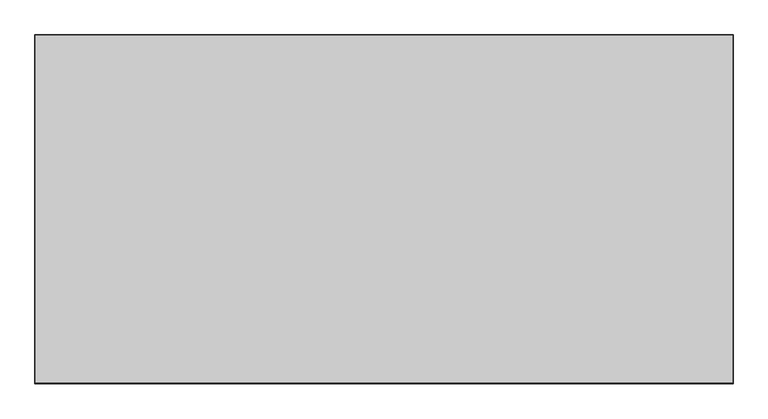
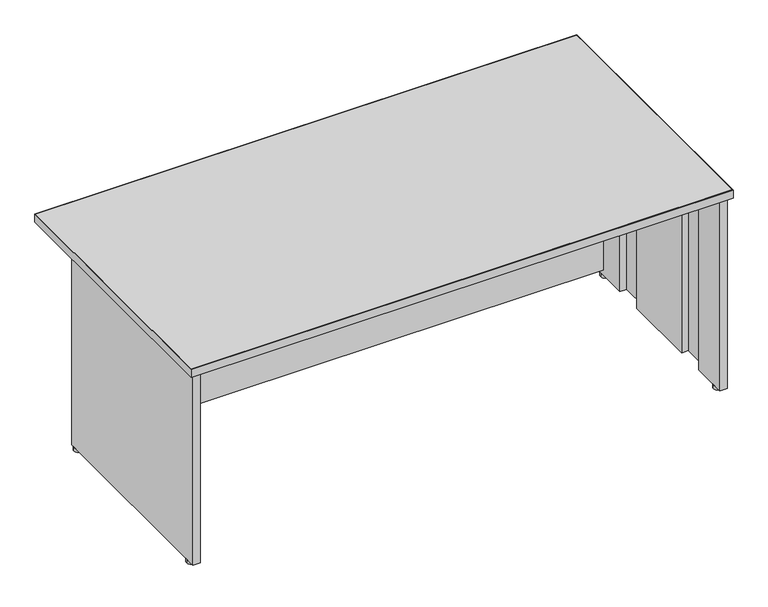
"""IFC4 building model written with IfcOpenShell, lengths in millimetres: furniture geometry, Steelcase - Kick Freestanding - Desk Shell - Full Height Modesty Panel : 36D x 72W."""

from ifc_helpers import new_model, si_unit, point, frame, frame_2d, origin, origin_with_axes, place, context, project, spatial, polyline, circle_curve, trimmed, segment, composite_curve, outline, extrude, source, transform, mapped, element, save


def furniture_db5e789c(model_context):
    return source(origin(), model_context, "Body", "SweptSolid", [
        extrude(outline(polyline([(677.0450425, -1152.3647597), (677.0450425, -1126.9647604), (2431.4738425, -1126.9647604), (2431.4738425, -1152.3647597), (677.0450425, -1152.3647597)])), frame((0.0, 0.0, 31.242), z_axis=(0.0, 0.0, 1.0), x_axis=(1.0, 0.0, 0.0)), (0.0, 0.0, 1.0), 663.702),
        extrude(outline(composite_curve([segment(trimmed(circle_curve(frame_2d((665.1357759, -1139.3367877)), 13.97), [point((651.1657759, -1139.3367877))], [point((679.1057759, -1139.3367877))], False, "CARTESIAN"), True, "CONTINUOUS"), segment(trimmed(circle_curve(frame_2d((665.1357759, -1139.3367877)), 13.97), [point((679.1057759, -1139.3367877))], [point((651.1657759, -1139.3367877))], False, "CARTESIAN"), True, "CONTINUOUS")], self_intersect=False)), origin_with_axes(), (0.0, 0.0, 1.0), 12.446),
        extrude(outline(composite_curve([segment(trimmed(circle_curve(frame_2d((665.1357759, -1798.4441481)), 13.97), [point((651.1657759, -1798.4441481))], [point((679.1057759, -1798.4441481))], False, "CARTESIAN"), True, "CONTINUOUS"), segment(trimmed(circle_curve(frame_2d((665.1357759, -1798.4441481)), 13.97), [point((679.1057759, -1798.4441481))], [point((651.1657759, -1798.4441481))], False, "CARTESIAN"), True, "CONTINUOUS")], self_intersect=False)), origin_with_axes(), (0.0, 0.0, 1.0), 12.446),
        extrude(outline(polyline([(2431.4738425, -1248.4529604), (2431.4738425, -1125.1867604), (2455.9594421, -1125.1867604), (2455.9594421, -1833.338741), (2431.4738421, -1833.338741), (2431.4738421, -1709.0311348), (2453.9020425, -1709.0311348), (2453.9020425, -1609.3107682), (2431.4738421, -1609.3107682), (2431.4738421, -1348.1733647), (2453.9020425, -1348.1733647), (2453.9020425, -1248.4529604), (2431.4738425, -1248.4529604)])), frame((0.0, 0.0, 12.446), z_axis=(0.0, 0.0, 1.0), x_axis=(1.0, 0.0, 0.0)), (0.0, 0.0, 1.0), 682.498),
        extrude(outline(polyline([(677.0450425, -1248.4529604), (654.6168425, -1248.4529604), (654.6168425, -1348.1733647), (677.0450429, -1348.1733647), (677.0450429, -1609.3107682), (654.6168425, -1609.3107682), (654.6168425, -1709.0311348), (677.0450429, -1709.0311348), (677.0450429, -1833.338741), (652.5594429, -1833.338741), (652.5594429, -1125.1867604), (677.0450425, -1125.1867604), (677.0450425, -1248.4529604)])), frame((0.0, 0.0, 12.446), z_axis=(0.0, 0.0, 1.0), x_axis=(1.0, 0.0, 0.0)), (0.0, 0.0, 1.0), 682.498),
        extrude(outline(polyline([(2467.6688425, -932.6293604), (2467.6688425, -1843.0669215), (640.8500425, -1843.0669215), (640.8500425, -932.6293604), (2467.6688425, -932.6293604)])), frame((0.0, 0.0, 694.944), z_axis=(0.0, 0.0, 1.0), x_axis=(1.0, 0.0, 0.0)), (0.0, 0.0, 1.0), 28.956),
        extrude(outline(polyline([(2468.6594425, -931.6387604), (2468.6594425, -1846.0387604), (639.8594425, -1846.0387604), (639.8594425, -931.6387604), (2468.6594425, -931.6387604)]), holes=[polyline([(2467.6688425, -932.6293604), (640.8500425, -932.6293604), (640.8500425, -1843.0669215), (2467.6688425, -1843.0669215), (2467.6688425, -932.6293604)])]), frame((0.0, 0.0, 694.944), z_axis=(0.0, 0.0, 1.0), x_axis=(1.0, 0.0, 0.0)), (0.0, 0.0, 1.0), 28.956),
        extrude(outline(composite_curve([segment(trimmed(circle_curve(frame_2d((2443.3831091, -1798.4441481)), 13.97), [point((2429.4131091, -1798.4441481))], [point((2457.3531091, -1798.4441481))], False, "CARTESIAN"), True, "CONTINUOUS"), segment(trimmed(circle_curve(frame_2d((2443.3831091, -1798.4441481)), 13.97), [point((2457.3531091, -1798.4441481))], [point((2429.4131091, -1798.4441481))], False, "CARTESIAN"), True, "CONTINUOUS")], self_intersect=False)), origin_with_axes(), (0.0, 0.0, 1.0), 12.446),
        extrude(outline(composite_curve([segment(trimmed(circle_curve(frame_2d((2443.3831091, -1139.3367877)), 13.97), [point((2457.3531091, -1139.3367877))], [point((2429.4131091, -1139.3367877))], False, "CARTESIAN"), True, "CONTINUOUS"), segment(trimmed(circle_curve(frame_2d((2443.3831091, -1139.3367877)), 13.97), [point((2429.4131091, -1139.3367877))], [point((2457.3531091, -1139.3367877))], False, "CARTESIAN"), True, "CONTINUOUS")], self_intersect=False)), origin_with_axes(), (0.0, 0.0, 1.0), 12.446),
    ])


if __name__ == "__main__":
    model = new_model("IFC4")
    model_context = context("Model", 3, world=origin())
    ifc_project = project(units=[si_unit("LENGTHUNIT", "METRE", prefix="MILLI")], contexts=[model_context])
    site = spatial("IfcSite", under=ifc_project)
    building = spatial("IfcBuilding", under=site)
    placement = place(None, origin())
    furniture_shape = furniture_db5e789c(model_context)
    element("IfcFurniture", 1, ObjectType="Steelcase - Kick Freestanding - Desk Shell - Full Height Modesty Panel : 36D x 72W", at=placement, inside=building, context=model_context, shape_type="MappedRepresentation", body=[
        mapped(furniture_shape, transform((0.0, 0.0, 0.0), x_axis=(1.0, 0.0, 0.0), y_axis=(0.0, 1.0, 0.0), z_axis=(0.0, 0.0, 1.0))),
    ])
    save(model, "model.ifc")
